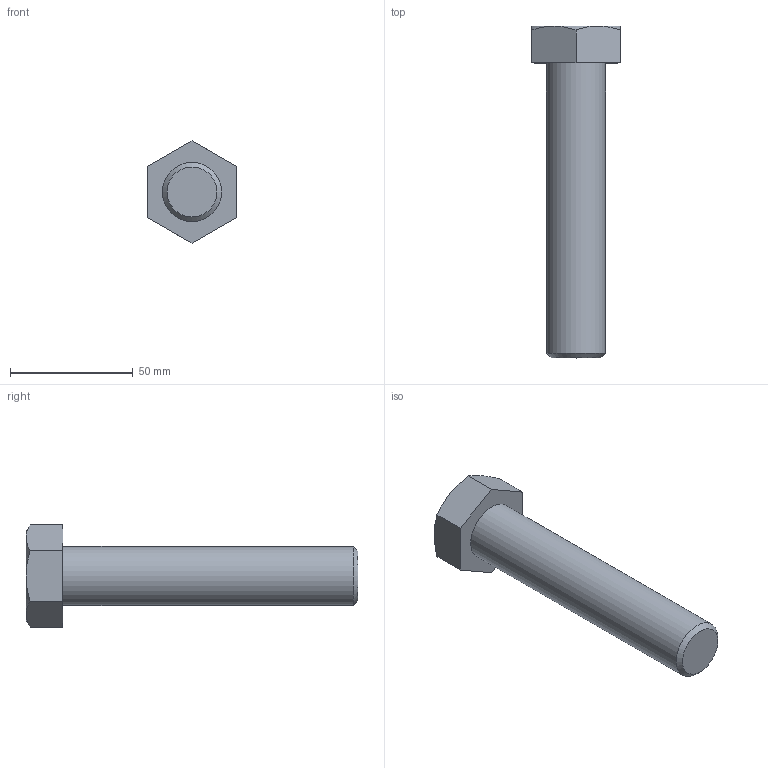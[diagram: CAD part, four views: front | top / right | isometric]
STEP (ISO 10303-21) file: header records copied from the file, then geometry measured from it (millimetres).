
FILE_DESCRIPTION(/* description */ (''),/* implementation_level */ '2;1');
FILE_NAME(/* name */ 'C:\Users\unitec\Documents\Inventor\各種小物\JIS\JIS B 1180 六角ボルト 等級C\hbc24\M24x120.stp',/* time_stamp */ '2015-02-13T14:54:30+09:00',/* author */ ('unitec'),/* organization */ (''),/* preprocessor_version */ 'ST-DEVELOPER v15.2',/* originating_system */ 'Autodesk Inventor 2014',/* authorisation */ '');
FILE_SCHEMA (('AUTOMOTIVE_DESIGN { 1 0 10303 214 3 1 1 }'));
Length unit declared in the file: millimetre
Products named in the file (1): M24x120
Bounding box: 36 x 135 x 41.57 mm (x, y, z)
Volume: 70950.5 mm3; surface area: 13024.9 mm2
Topology: 1 solids, 1 shells, 17 faces, 35 edges, 21 vertices
Faces by surface type: plane 9, cone 7, cylinder 1
Full cylindrical faces by diameter (mm): 24 x1
Entity records: 441 total; most frequent: CARTESIAN_POINT 96, ORIENTED_EDGE 66, DIRECTION 66, EDGE_CURVE 33, AXIS2_PLACEMENT_3D 27, VERTEX_POINT 21, EDGE_LOOP 20, ADVANCED_FACE 17
